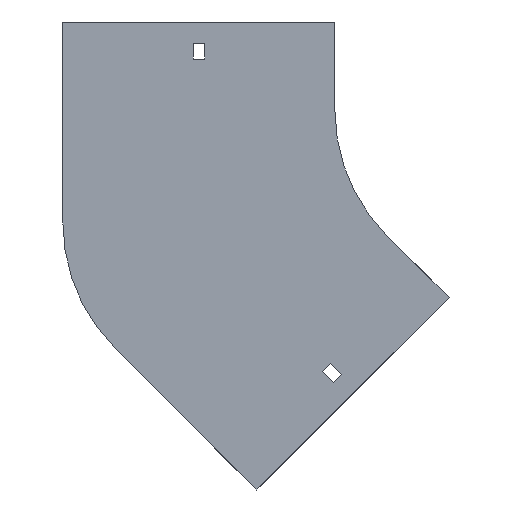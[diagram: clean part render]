
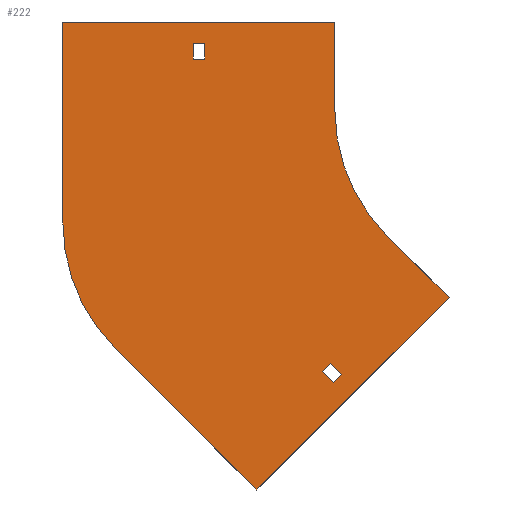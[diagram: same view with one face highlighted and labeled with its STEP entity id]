
A CAD part, front view. The second image highlights one B-rep face of the part: STEP entity #222.
In plain terms, the highlighted planar face has unit normal (0, -1, 0).
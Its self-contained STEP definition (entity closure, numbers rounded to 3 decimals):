
#5 = VERTEX_POINT ( 'NONE', #556 ) ;
#8 = EDGE_CURVE ( 'NONE', #408, #1127, #378, .T. ) ;
#13 = FACE_BOUND ( 'NONE', #1114, .T. ) ;
#17 = DIRECTION ( 'NONE',  ( 0., 0., -1. ) ) ;
#22 = CARTESIAN_POINT ( 'NONE',  ( -254., 0., 50. ) ) ;
#26 = VERTEX_POINT ( 'NONE', #389 ) ;
#33 = LINE ( 'NONE', #639, #344 ) ;
#56 = CARTESIAN_POINT ( 'NONE',  ( -173.75, 0., 38. ) ) ;
#62 = VERTEX_POINT ( 'NONE', #1054 ) ;
#83 = LINE ( 'NONE', #876, #1286 ) ;
#108 = EDGE_CURVE ( 'NONE', #62, #408, #1941, .T. ) ;
#114 = ORIENTED_EDGE ( 'NONE', *, *, #573, .T. ) ;
#152 = ORIENTED_EDGE ( 'NONE', *, *, #749, .F. ) ;
#167 = VECTOR ( 'NONE', #641, 1000. ) ;
#177 = DIRECTION ( 'NONE',  ( 0.707, 0., -0.707 ) ) ;
#181 = EDGE_CURVE ( 'NONE', #734, #26, #619, .T. ) ;
#189 = ORIENTED_EDGE ( 'NONE', *, *, #1083, .F. ) ;
#219 = CARTESIAN_POINT ( 'NONE',  ( -70.711, 0., -70.711 ) ) ;
#222 = ADVANCED_FACE ( 'NONE', ( #629, #1360, #13 ), #1371, .T. ) ;
#237 = DIRECTION ( 'NONE',  ( -0.707, 0., 0.707 ) ) ;
#239 = ORIENTED_EDGE ( 'NONE', *, *, #1536, .F. ) ;
#240 = EDGE_CURVE ( 'NONE', #1127, #802, #787, .T. ) ;
#244 = LINE ( 'NONE', #521, #1011 ) ;
#253 = DIRECTION ( 'NONE',  ( 0., 0., -1. ) ) ;
#260 = VECTOR ( 'NONE', #177, 1000. ) ;
#308 = VECTOR ( 'NONE', #1370, 1000. ) ;
#344 = VECTOR ( 'NONE', #1232, 1000. ) ;
#378 = LINE ( 'NONE', #1744, #1950 ) ;
#389 = CARTESIAN_POINT ( 'NONE',  ( -35.355, 0., -106.066 ) ) ;
#400 = CARTESIAN_POINT ( 'NONE',  ( -254., 0., -63.789 ) ) ;
#408 = VERTEX_POINT ( 'NONE', #1502 ) ;
#445 = LINE ( 'NONE', #1648, #1103 ) ;
#458 = EDGE_CURVE ( 'NONE', #1939, #1711, #445, .T. ) ;
#479 = CARTESIAN_POINT ( 'NONE',  ( -173.75, 0., 29. ) ) ;
#521 = CARTESIAN_POINT ( 'NONE',  ( -144.25, 0., -214.96 ) ) ;
#537 = EDGE_CURVE ( 'NONE', #731, #1067, #745, .T. ) ;
#556 = CARTESIAN_POINT ( 'NONE',  ( -144.25, 0., -214.96 ) ) ;
#573 = EDGE_CURVE ( 'NONE', #802, #62, #642, .T. ) ;
#580 = ORIENTED_EDGE ( 'NONE', *, *, #108, .T. ) ;
#599 = DIRECTION ( 'NONE',  ( 0., 0., 1. ) ) ;
#600 = ORIENTED_EDGE ( 'NONE', *, *, #958, .F. ) ;
#603 = ORIENTED_EDGE ( 'NONE', *, *, #1811, .F. ) ;
#607 = ORIENTED_EDGE ( 'NONE', *, *, #888, .F. ) ;
#616 = DIRECTION ( 'NONE',  ( -0.707, 0., -0.707 ) ) ;
#619 = LINE ( 'NONE', #777, #260 ) ;
#629 = FACE_BOUND ( 'NONE', #721, .T. ) ;
#636 = CARTESIAN_POINT ( 'NONE',  ( -254., 0., -63.789 ) ) ;
#639 = CARTESIAN_POINT ( 'NONE',  ( -254., 0., 50. ) ) ;
#641 = DIRECTION ( 'NONE',  ( 0., 0., -1. ) ) ;
#642 = LINE ( 'NONE', #648, #858 ) ;
#648 = CARTESIAN_POINT ( 'NONE',  ( -180.25, 0., 29. ) ) ;
#696 = VECTOR ( 'NONE', #616, 1000. ) ;
#698 = AXIS2_PLACEMENT_3D ( 'NONE', #1591, #1924, #1316 ) ;
#704 = CARTESIAN_POINT ( 'NONE',  ( -100., 0., 50. ) ) ;
#721 = EDGE_LOOP ( 'NONE', ( #580, #1845, #1650, #114 ) ) ;
#731 = VERTEX_POINT ( 'NONE', #1671 ) ;
#734 = VERTEX_POINT ( 'NONE', #219 ) ;
#742 = CARTESIAN_POINT ( 'NONE',  ( -100.586, 0., -154.326 ) ) ;
#745 = LINE ( 'NONE', #1657, #1380 ) ;
#749 = EDGE_CURVE ( 'NONE', #26, #5, #992, .T. ) ;
#776 = CARTESIAN_POINT ( 'NONE',  ( -106.95, 0., -147.962 ) ) ;
#777 = CARTESIAN_POINT ( 'NONE',  ( -70.711, 0., -70.711 ) ) ;
#787 = LINE ( 'NONE', #1382, #167 ) ;
#802 = VERTEX_POINT ( 'NONE', #479 ) ;
#840 = DIRECTION ( 'NONE',  ( 1., 0., 0. ) ) ;
#849 = DIRECTION ( 'NONE',  ( -0.707, 0., 0.707 ) ) ;
#855 = VERTEX_POINT ( 'NONE', #704 ) ;
#858 = VECTOR ( 'NONE', #1244, 1000. ) ;
#862 = EDGE_CURVE ( 'NONE', #1067, #1939, #1538, .T. ) ;
#863 = VERTEX_POINT ( 'NONE', #22 ) ;
#876 = CARTESIAN_POINT ( 'NONE',  ( -102.354, 0., -143.366 ) ) ;
#887 = ORIENTED_EDGE ( 'NONE', *, *, #862, .F. ) ;
#888 = EDGE_CURVE ( 'NONE', #1720, #863, #1135, .T. ) ;
#890 = CARTESIAN_POINT ( 'NONE',  ( -180.25, 0., 29. ) ) ;
#895 = CARTESIAN_POINT ( 'NONE',  ( -100., 0., 0. ) ) ;
#902 = CARTESIAN_POINT ( 'NONE',  ( 0., 0., 0. ) ) ;
#918 = ORIENTED_EDGE ( 'NONE', *, *, #181, .F. ) ;
#958 = EDGE_CURVE ( 'NONE', #1473, #1720, #1725, .T. ) ;
#992 = LINE ( 'NONE', #1358, #696 ) ;
#1011 = VECTOR ( 'NONE', #849, 1000. ) ;
#1053 = CARTESIAN_POINT ( 'NONE',  ( -224.711, 0., -134.5 ) ) ;
#1054 = CARTESIAN_POINT ( 'NONE',  ( -180.25, 0., 29. ) ) ;
#1065 = ORIENTED_EDGE ( 'NONE', *, *, #1240, .F. ) ;
#1067 = VERTEX_POINT ( 'NONE', #1363 ) ;
#1081 = ORIENTED_EDGE ( 'NONE', *, *, #1411, .F. ) ;
#1083 = EDGE_CURVE ( 'NONE', #1506, #734, #1732, .T. ) ;
#1103 = VECTOR ( 'NONE', #1178, 1000. ) ;
#1114 = EDGE_LOOP ( 'NONE', ( #1367, #887, #1269, #603 ) ) ;
#1127 = VERTEX_POINT ( 'NONE', #56 ) ;
#1135 = LINE ( 'NONE', #400, #1667 ) ;
#1178 = DIRECTION ( 'NONE',  ( 0.707, 0., 0.707 ) ) ;
#1195 = CARTESIAN_POINT ( 'NONE',  ( 0., 0., 0. ) ) ;
#1223 = DIRECTION ( 'NONE',  ( 0., 0., -1. ) ) ;
#1232 = DIRECTION ( 'NONE',  ( 1., 0., 0. ) ) ;
#1240 = EDGE_CURVE ( 'NONE', #5, #1473, #244, .T. ) ;
#1244 = DIRECTION ( 'NONE',  ( -1., 0., 0. ) ) ;
#1269 = ORIENTED_EDGE ( 'NONE', *, *, #537, .F. ) ;
#1286 = VECTOR ( 'NONE', #237, 1000. ) ;
#1316 = DIRECTION ( 'NONE',  ( 0., 0., 1. ) ) ;
#1358 = CARTESIAN_POINT ( 'NONE',  ( -35.355, 0., -106.066 ) ) ;
#1360 = FACE_OUTER_BOUND ( 'NONE', #1832, .T. ) ;
#1363 = CARTESIAN_POINT ( 'NONE',  ( -106.95, 0., -147.962 ) ) ;
#1367 = ORIENTED_EDGE ( 'NONE', *, *, #458, .F. ) ;
#1370 = DIRECTION ( 'NONE',  ( 0.707, 0., -0.707 ) ) ;
#1371 = PLANE ( 'NONE',  #1701 ) ;
#1380 = VECTOR ( 'NONE', #1666, 1000. ) ;
#1382 = CARTESIAN_POINT ( 'NONE',  ( -173.75, 0., 29. ) ) ;
#1411 = EDGE_CURVE ( 'NONE', #863, #855, #33, .T. ) ;
#1421 = AXIS2_PLACEMENT_3D ( 'NONE', #1195, #1799, #17 ) ;
#1443 = VECTOR ( 'NONE', #253, 1000. ) ;
#1454 = VECTOR ( 'NONE', #599, 1000. ) ;
#1473 = VERTEX_POINT ( 'NONE', #1053 ) ;
#1502 = CARTESIAN_POINT ( 'NONE',  ( -180.25, 0., 38. ) ) ;
#1506 = VERTEX_POINT ( 'NONE', #895 ) ;
#1536 = EDGE_CURVE ( 'NONE', #855, #1506, #1893, .T. ) ;
#1538 = LINE ( 'NONE', #776, #308 ) ;
#1591 = CARTESIAN_POINT ( 'NONE',  ( -154., 0., -63.789 ) ) ;
#1600 = DIRECTION ( 'NONE',  ( 0., 0., 1. ) ) ;
#1605 = CARTESIAN_POINT ( 'NONE',  ( -100., 0., 50. ) ) ;
#1648 = CARTESIAN_POINT ( 'NONE',  ( -100.586, 0., -154.326 ) ) ;
#1650 = ORIENTED_EDGE ( 'NONE', *, *, #240, .T. ) ;
#1657 = CARTESIAN_POINT ( 'NONE',  ( -106.95, 0., -147.962 ) ) ;
#1666 = DIRECTION ( 'NONE',  ( -0.707, 0., -0.707 ) ) ;
#1667 = VECTOR ( 'NONE', #1600, 1000. ) ;
#1671 = CARTESIAN_POINT ( 'NONE',  ( -102.354, 0., -143.366 ) ) ;
#1676 = CARTESIAN_POINT ( 'NONE',  ( -95.99, 0., -149.73 ) ) ;
#1701 = AXIS2_PLACEMENT_3D ( 'NONE', #902, #1835, #1223 ) ;
#1711 = VERTEX_POINT ( 'NONE', #1676 ) ;
#1720 = VERTEX_POINT ( 'NONE', #636 ) ;
#1725 = CIRCLE ( 'NONE', #698, 100. ) ;
#1732 = CIRCLE ( 'NONE', #1421, 100. ) ;
#1744 = CARTESIAN_POINT ( 'NONE',  ( -180.25, 0., 38. ) ) ;
#1799 = DIRECTION ( 'NONE',  ( 0., -1., 0. ) ) ;
#1811 = EDGE_CURVE ( 'NONE', #1711, #731, #83, .T. ) ;
#1832 = EDGE_LOOP ( 'NONE', ( #1081, #607, #600, #1065, #152, #918, #189, #239 ) ) ;
#1835 = DIRECTION ( 'NONE',  ( 0., -1., 0. ) ) ;
#1845 = ORIENTED_EDGE ( 'NONE', *, *, #8, .T. ) ;
#1893 = LINE ( 'NONE', #1605, #1443 ) ;
#1924 = DIRECTION ( 'NONE',  ( 0., 1., 0. ) ) ;
#1939 = VERTEX_POINT ( 'NONE', #742 ) ;
#1941 = LINE ( 'NONE', #890, #1454 ) ;
#1950 = VECTOR ( 'NONE', #840, 1000. ) ;
